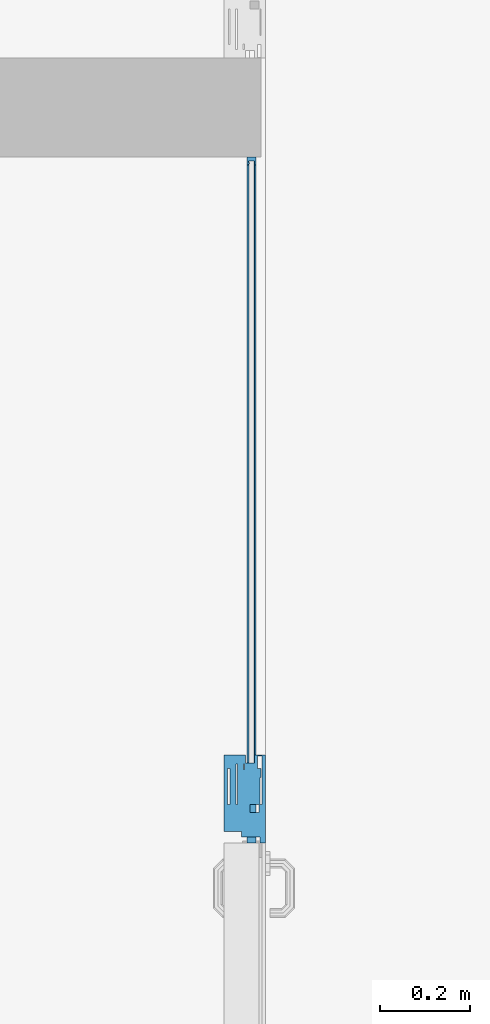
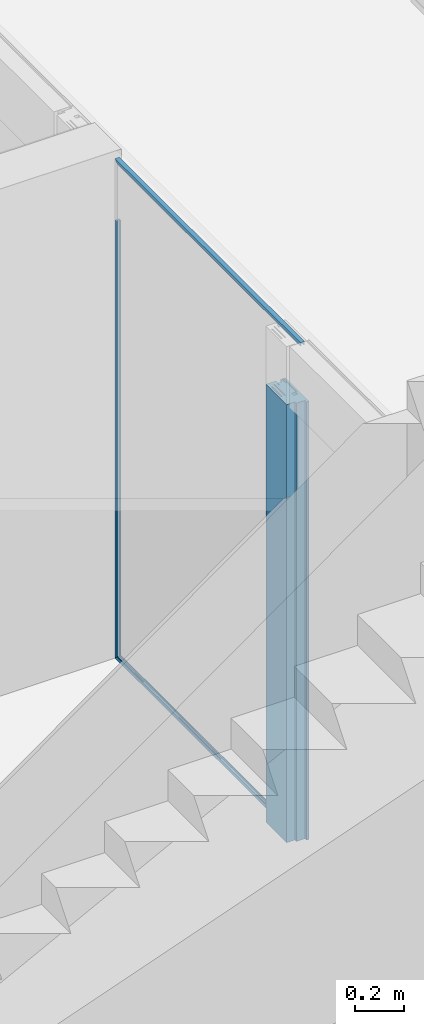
# One storey, part 2 of 79: 4 members, 1 element without a shape of its own.
"""IFC2X3 building model written with IfcOpenShell, lengths in millimetres."""

from ifc_helpers import new_model, entity, si_unit, converted_unit, derived_unit, money_unit, direction, frame, origin_with_axes, place, context, subcontext, project, spatial, faceted_brep, source, transform, mapped, material, material_list, type_object, element, aggregate, save


model = new_model("IFC2X3")

# Units and contexts
model_context = context("Model", 3, precision=0.01, world=origin_with_axes(), true_north=direction((0.0, 1.0)))
body_context = subcontext(model_context, "Body", "Model", "MODEL_VIEW")
ifc_project = project(units=[si_unit("LENGTHUNIT", "METRE", prefix="MILLI"), si_unit("AREAUNIT", "SQUARE_METRE"), si_unit("VOLUMEUNIT", "CUBIC_METRE"), converted_unit("PLANEANGLEUNIT", "DEGREE", entity("IfcPlaneAngleMeasure", 0.0174532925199), si_unit("PLANEANGLEUNIT", "RADIAN"), dimensions=[0, 0, 0, 0, 0, 0, 0]), si_unit("SOLIDANGLEUNIT", "STERADIAN"), money_unit("EUR"), converted_unit("TIMEUNIT", "Year", entity("IfcTimeMeasure", 31556926.0), si_unit("TIMEUNIT", "SECOND"), dimensions=[0, 0, 1, 0, 0, 0, 0]), si_unit("MASSUNIT", "GRAM", prefix="KILO"), si_unit("THERMODYNAMICTEMPERATUREUNIT", "DEGREE_CELSIUS"), si_unit("LUMINOUSINTENSITYUNIT", "LUMEN"), si_unit("ENERGYUNIT", "JOULE", prefix="MEGA"), derived_unit("THERMALCONDUCTANCEUNIT", [(si_unit("POWERUNIT", "WATT"), 1), (si_unit("LENGTHUNIT", "METRE"), -1), (si_unit("THERMODYNAMICTEMPERATUREUNIT", "KELVIN"), -1)]), derived_unit("SPECIFICHEATCAPACITYUNIT", [(si_unit("ENERGYUNIT", "JOULE"), 1), (si_unit("MASSUNIT", "GRAM", prefix="KILO"), -1), (si_unit("THERMODYNAMICTEMPERATUREUNIT", "KELVIN"), -1)]), derived_unit("MASSDENSITYUNIT", [(si_unit("MASSUNIT", "GRAM", prefix="KILO"), 1), (si_unit("VOLUMEUNIT", "CUBIC_METRE"), -1)])], contexts=[model_context])

# Site, building, storey
site_placement = place(None, origin_with_axes())
site = spatial("IfcSite", under=ifc_project, at=site_placement, Name="L.Koidula tn 11b", CompositionType="ELEMENT")
building_placement = place(site_placement, origin_with_axes())
building = spatial("IfcBuilding", under=site, at=building_placement, Name="Rakvere Riigigümnaasium", CompositionType="ELEMENT")
storey_placement = place(building_placement, frame((0.0, 0.0, 3720.0), z_axis=(0.0, 0.0, 1.0), x_axis=(1.0, 0.0, 0.0)))
storey = spatial("IfcBuildingStorey", under=building, at=storey_placement, Name="2.korrus +3,72", CompositionType="ELEMENT", Elevation=3720.0)

# Curtain wall, members
curtain_wall_type = type_object("IfcCurtainWallType", Name="Curtain Wall Type", PredefinedType="NOTDEFINED")
curtain_wall_placement = place(storey_placement, frame((41130.915445, 17840.4555248, 2.4134225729e-05), z_axis=(0.0, 0.0, 1.0), x_axis=(1.0, 0.0, 0.0)))
curtain_wall = element("IfcCurtainWall", 1, at=curtain_wall_placement, inside=storey, type_object=curtain_wall_type, Name="SKLF-12")
ifc_material_1 = material(Name="Klaasvill")
ifc_material_2 = material(Name="Alumiiniumprofiil")
ifc_material_list_1 = material_list([ifc_material_1, ifc_material_2])
member_type_1 = type_object("IfcMemberType", Name="Boundary Frame 17 x 1", PredefinedType="MULLION")
shared_shape_1 = source(origin_with_axes(), body_context, "Body", "Brep", [
    faceted_brep([(-8.35001937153, -5.0, 8.35001937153), (-2.00001937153, -5.0, 2.00001937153), (-2.00001937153, -5.0, 2200.0), (-8.35001937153, -5.0, 2200.0), (-8.35001937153, 9.01614452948, 8.35001937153), (-2.00001937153, 9.01614452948, 2.00001937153), (-2.00001937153, 9.01614452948, 2200.0), (-8.35001937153, 9.01614452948, 2200.0)], [[[0, 1, 2, 3]], [[1, 0, 4, 5]], [[1, 5, 6, 2]], [[2, 6, 7, 3]], [[4, 0, 3, 7]], [[5, 4, 7, 6]]]),
    faceted_brep([(-12.004489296, 7.03075035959, 12.004489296), (-11.987414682, 9.01614444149, 11.987414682), (-11.987414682, 9.01614444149, 2200.0), (-12.004489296, 7.03075035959, 2200.0), (-12.742237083, 6.29300257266, 12.742237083), (-13.7500193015, 6.02296814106, 13.7500193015), (-14.75780152, 6.29300257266, 14.75780152), (-15.4955493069, 7.03075035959, 15.4955493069), (-15.7655837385, 8.03853257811, 15.7655837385), (-15.5126239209, 9.01614444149, 15.5126239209), (-15.5126239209, 9.01614444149, 2200.0), (-15.7655837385, 8.03853257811, 2200.0), (-15.4955493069, 7.03075035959, 2200.0), (-14.75780152, 6.29300257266, 2200.0), (-13.7500193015, 6.02296814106, 2200.0), (-12.742237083, 6.29300257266, 2200.0)], [[[0, 1, 2, 3]], [[1, 0, 4, 5, 6, 7, 8, 9]], [[1, 9, 10, 2]], [[2, 10, 11, 12, 13, 14, 15, 3]], [[4, 0, 3, 15]], [[5, 4, 15, 14]], [[6, 5, 14, 13]], [[7, 6, 13, 12]], [[8, 7, 12, 11]], [[9, 8, 11, 10]]]),
    faceted_brep([(-17.0000193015, -8.0, 17.0000193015), (0.0, -8.0, 0.0), (0.0, -8.0, 2200.0), (-17.0000193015, -8.0, 2200.0), (-17.0000193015, -5.0, 17.0000193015), (-8.35001937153, -5.0, 8.35001937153), (-2.00001930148, -5.0, 2.00001930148), (-2.00001930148, 9.01614444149, 2.00001930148), (-8.35001937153, 9.01614452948, 8.35001937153), (-11.987414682, 9.01614444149, 11.987414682), (-15.5126239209, 9.01614444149, 15.5126239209), (-17.0000193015, 9.01614444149, 17.0000193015), (-17.0000193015, 12.0, 17.0000193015), (0.0, 12.0, 0.0), (0.0, 12.0, 2200.0), (-17.0000193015, 12.0, 2200.0), (-17.0000193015, 9.01614444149, 2200.0), (-15.5126239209, 9.01614444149, 2200.0), (-11.987414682, 9.01614444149, 2200.0), (-8.35001937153, 9.01614452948, 2200.0), (-2.00001930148, 9.01614444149, 2200.0), (-2.00001930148, -5.0, 2200.0), (-8.35001937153, -5.0, 2200.0), (-17.0000193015, -5.0, 2200.0)], [[[0, 1, 2, 3]], [[1, 0, 4, 5, 6, 7, 8, 9, 10, 11, 12, 13]], [[1, 13, 14, 2]], [[2, 14, 15, 16, 17, 18, 19, 20, 21, 22, 23, 3]], [[4, 0, 3, 23]], [[5, 4, 23, 22]], [[6, 5, 22, 21]], [[7, 6, 21, 20]], [[8, 7, 20, 19]], [[9, 8, 19, 18]], [[10, 9, 18, 17]], [[11, 10, 17, 16]], [[12, 11, 16, 15]], [[13, 12, 15, 14]]]),
])
member_1_placement = place(curtain_wall_placement, frame((0.08385283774, 1989.99999823, -2.4134225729e-05), z_axis=(0.0, 0.0, 1.0), x_axis=(-4.21371043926e-05, -0.999999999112, 0.0)))
member_1 = element("IfcMember", 2, at=member_1_placement, type_object=member_type_1, material=ifc_material_list_1, Name="PV-SKLF-19-raam", ObjectType="MULLION", context=body_context, shape_type="MappedRepresentation", body=[
    mapped(shared_shape_1, transform((0.0, 0.0, 0.0), x_axis=(-1.0, 0.0, 0.0), y_axis=(0.0, -1.0, 0.0), z_axis=(0.0, 0.0, 1.0))),
])
ifc_material_3 = material(Name="Puit")
ifc_material_4 = material(Name="MDF")
ifc_material_list_2 = material_list([ifc_material_3, ifc_material_4, ifc_material_1, ifc_material_2])
member_type_2 = type_object("IfcMemberType", Name="Siseklaasfassaad - Ukseraam-2 195 x 29", PredefinedType="MULLION")
shared_shape_2 = source(origin_with_axes(), body_context, "Body", "Brep", [
    faceted_brep([(0.0, 50.8404412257, 0.0), (0.0, 50.8404412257, 2200.0), (0.0, -15.2764635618, 2200.0), (0.0, -15.2764635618, 0.0), (-29.9999995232, 50.8404412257, 0.0), (-29.9999995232, 50.8404412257, 2200.0), (-30.0000008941, 23.8404411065, 2200.0), (-41.9954210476, 23.8404411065, 2200.0), (-41.9954210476, -8.15955847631, 2200.0), (-41.9954210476, -15.2764635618, 2200.0), (-41.8573788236, -15.2764635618, 2200.0), (-41.8573788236, -15.2764635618, 0.0), (-41.9954210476, -15.2764635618, 0.0), (-41.9954210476, -8.15955847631, 0.0), (-41.9954210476, 23.8404411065, 0.0), (-30.0000008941, 23.8404411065, 0.0)], [[[0, 1, 2, 3]], [[4, 5, 1, 0]], [[1, 5, 6, 7, 8, 9, 10, 2]], [[3, 2, 10, 11]], [[0, 3, 11, 12, 13, 14, 15, 4]], [[15, 6, 5, 4]], [[14, 7, 6, 15]], [[13, 8, 7, 14]], [[12, 9, 8, 13]], [[11, 10, 9, 12]]]),
    faceted_brep([(137.859682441, -21.159534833, 0.0), (137.859682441, -21.159534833, 2200.0), (137.859682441, -29.159535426, 2200.0), (137.859682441, -29.159535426, 0.0), (30.0029064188, -21.1595377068, 0.0), (30.0029064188, -21.1595377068, 2200.0), (-52.9999994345, -21.1595377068, 2200.0), (-52.9999994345, -29.1595584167, 2200.0), (-52.9999994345, -29.1595584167, 0.0), (-52.9999994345, -21.1595377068, 0.0)], [[[0, 1, 2, 3]], [[4, 5, 1, 0]], [[1, 5, 6, 7, 2]], [[3, 2, 7, 8]], [[0, 3, 8, 9, 4]], [[9, 6, 5, 4]], [[8, 7, 6, 9]]]),
    faceted_brep([(137.859682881, 54.8404422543, 0.0), (137.859682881, 54.8404422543, 2200.0), (121.188402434, 54.8405744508, 2200.0), (121.188402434, 54.8405744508, 0.0), (137.859682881, 62.8404399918, 0.0), (137.859682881, 62.8404399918, 2200.0), (-28.0000003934, 62.8404428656, 2200.0), (-28.0000003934, 54.8404422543, 2200.0), (-1.12771575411e-06, 54.8404422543, 2200.0), (30.0029066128, 54.8404422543, 2200.0), (109.859683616, 54.8405744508, 2200.0), (109.859683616, 54.8405744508, 0.0), (30.0029066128, 54.8404422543, 0.0), (-1.12771575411e-06, 54.8404422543, 0.0), (-28.0000003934, 54.8404422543, 0.0), (-28.0000003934, 62.8404428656, 0.0)], [[[0, 1, 2, 3]], [[4, 5, 1, 0]], [[1, 5, 6, 7, 8, 9, 10, 2]], [[3, 2, 10, 11]], [[0, 3, 11, 12, 13, 14, 15, 4]], [[15, 6, 5, 4]], [[14, 7, 6, 15]], [[13, 8, 7, 14]], [[12, 9, 8, 13]], [[11, 10, 9, 12]]]),
    faceted_brep([(120.859682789, 33.3330734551, 0.0), (120.859682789, 33.3330734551, 2200.0), (120.859682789, 20.34054937, 2200.0), (120.859682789, 20.34054937, 0.0), (30.0029064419, 33.3311238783, 0.0), (30.0029064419, 33.3311238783, 2200.0), (30.0029050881, 20.3386011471, 2200.0), (107.859682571, 20.338601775, 2200.0), (107.859682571, 20.338601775, 0.0), (30.0029050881, 20.3386011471, 0.0)], [[[0, 1, 2, 3]], [[4, 5, 1, 0]], [[1, 5, 6, 7, 2]], [[3, 2, 7, 8]], [[0, 3, 8, 9, 4]], [[9, 6, 5, 4]], [[8, 7, 6, 9]]]),
    faceted_brep([(120.859682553, 49.8405506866, 0.0), (120.859682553, 49.8405506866, 2200.0), (120.859682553, 36.8405491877, 2200.0), (120.859682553, 36.8405491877, 0.0), (109.8596833, 49.8405506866, 0.0), (109.8596833, 49.8405506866, 2200.0), (30.0046927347, 49.8404410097, 2200.0), (30.0046927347, 36.8404411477, 2200.0), (30.0046927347, 36.8404411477, 0.0), (30.0046927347, 49.8404410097, 0.0)], [[[0, 1, 2, 3]], [[4, 5, 1, 0]], [[1, 5, 6, 7, 2]], [[3, 2, 7, 8]], [[0, 3, 8, 9, 4]], [[9, 6, 5, 4]], [[8, 7, 6, 9]]]),
    faceted_brep([(107.859682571, 20.338601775, 0.0), (107.859682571, 20.338601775, 2200.0), (107.859682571, -5.15955767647, 2200.0), (107.859682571, -5.15955767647, 0.0), (30.0029050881, 20.338601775, 0.0), (30.0029050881, 20.338601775, 2200.0), (30.0029050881, 5.24044086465, 2200.0), (30.0029050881, -15.1595587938, 2200.0), (30.0029050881, -17.1595580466, 2200.0), (89.8596820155, -17.1595604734, 2200.0), (107.859682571, -17.1595604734, 2200.0), (107.859682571, -11.1594268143, 2200.0), (107.859682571, -11.1594268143, 0.0), (107.859682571, -17.1595604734, 0.0), (89.8596820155, -17.1595604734, 0.0), (30.0029050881, -17.1595580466, 0.0), (30.0029050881, -15.1595587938, 0.0), (30.0029050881, 5.24044086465, 0.0)], [[[0, 1, 2, 3]], [[4, 5, 1, 0]], [[1, 5, 6, 7, 8, 9, 10, 11, 2]], [[3, 2, 11, 12]], [[0, 3, 12, 13, 14, 15, 16, 17, 4]], [[17, 6, 5, 4]], [[16, 7, 6, 17]], [[15, 8, 7, 16]], [[14, 9, 8, 15]], [[13, 10, 9, 14]], [[12, 11, 10, 13]]]),
    faceted_brep([(30.0029058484, 54.8404413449, 0.0), (30.0029058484, 54.8404413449, 2200.0), (30.0046927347, 49.8404410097, 2200.0), (30.0046927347, 49.8404410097, 0.0), (0.0, 54.8404413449, 0.0), (0.0, 54.8404413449, 2200.0), (-27.9999994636, 54.8404413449, 2200.0), (-27.9999994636, 62.8404415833, 2200.0), (-29.9999995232, 62.8404415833, 2200.0), (-29.9999995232, 54.8404413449, 2200.0), (-29.9999995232, 50.8404412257, 2200.0), (0.0, 50.8404412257, 2200.0), (0.0, -15.2764635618, 2200.0), (-41.8573788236, -15.2764635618, 2200.0), (-41.8573788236, -17.1595580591, 2200.0), (-54.9999995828, -17.1595580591, 2200.0), (-54.9999995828, -20.2336043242, 2200.0), (-54.9999995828, -29.1595584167, 2200.0), (-53.0000007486, -29.1595584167, 2200.0), (-53.0000007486, -21.1595363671, 2200.0), (30.0029058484, -21.1595363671, 2200.0), (30.0029050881, -17.1595580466, 2200.0), (30.0029058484, -15.1595579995, 2200.0), (12.999999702, -15.1595579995, 2200.0), (12.999999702, 5.24044206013, 2200.0), (30.0029058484, 5.24044206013, 2200.0), (30.0029050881, 20.3386011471, 2200.0), (30.0029064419, 33.3311238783, 2200.0), (30.0046927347, 36.8404411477, 2200.0), (30.0046927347, 36.8404411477, 0.0), (30.0029064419, 33.3311238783, 0.0), (30.0029050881, 20.3386011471, 0.0), (30.0029058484, 5.24044206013, 0.0), (12.999999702, 5.24044206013, 0.0), (12.999999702, -15.1595579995, 0.0), (30.0029058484, -15.1595579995, 0.0), (30.0029050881, -17.1595580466, 0.0), (30.0029058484, -21.1595363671, 0.0), (-53.0000007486, -21.1595363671, 0.0), (-53.0000007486, -29.1595584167, 0.0), (-54.9999995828, -29.1595584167, 0.0), (-54.9999995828, -20.2336043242, 0.0), (-54.9999995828, -17.1595580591, 0.0), (-41.8573788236, -17.1595580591, 0.0), (-41.8573788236, -15.2764635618, 0.0), (0.0, -15.2764635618, 0.0), (0.0, 50.8404412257, 0.0), (-29.9999995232, 50.8404412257, 0.0), (-29.9999995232, 54.8404413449, 0.0), (-29.9999995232, 62.8404415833, 0.0), (-27.9999994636, 62.8404415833, 0.0), (-27.9999994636, 54.8404413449, 0.0)], [[[0, 1, 2, 3]], [[4, 5, 1, 0]], [[1, 5, 6, 7, 8, 9, 10, 11, 12, 13, 14, 15, 16, 17, 18, 19, 20, 21, 22, 23, 24, 25, 26, 27, 28, 2]], [[3, 2, 28, 29]], [[0, 3, 29, 30, 31, 32, 33, 34, 35, 36, 37, 38, 39, 40, 41, 42, 43, 44, 45, 46, 47, 48, 49, 50, 51, 4]], [[51, 6, 5, 4]], [[50, 7, 6, 51]], [[49, 8, 7, 50]], [[48, 9, 8, 49]], [[47, 10, 9, 48]], [[46, 11, 10, 47]], [[45, 12, 11, 46]], [[44, 13, 12, 45]], [[43, 14, 13, 44]], [[42, 15, 14, 43]], [[41, 16, 15, 42]], [[40, 17, 16, 41]], [[39, 18, 17, 40]], [[38, 19, 18, 39]], [[37, 20, 19, 38]], [[36, 21, 20, 37]], [[35, 22, 21, 36]], [[34, 23, 22, 35]], [[33, 24, 23, 34]], [[32, 25, 24, 33]], [[31, 26, 25, 32]], [[30, 27, 26, 31]], [[29, 28, 27, 30]]]),
    faceted_brep([(139.859682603, 62.8404415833, 0.0), (139.859682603, 62.8404415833, 2200.0), (139.859682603, 15.2404414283, 2200.0), (139.859682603, 15.2404414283, 0.0), (137.859683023, 62.8404415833, 0.0), (137.859683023, 62.8404415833, 2200.0), (137.859681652, 54.8405734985, 2200.0), (121.188400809, 54.8405734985, 2200.0), (109.859683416, 54.8405734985, 2200.0), (109.859683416, 53.8404414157, 2200.0), (109.859683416, 49.8405505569, 2200.0), (120.859681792, 49.8405505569, 2200.0), (120.859682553, 36.8405491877, 2200.0), (120.859682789, 33.3330734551, 2200.0), (120.859682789, 20.34054937, 2200.0), (120.859681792, 17.2404410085, 2200.0), (107.859682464, 17.2404410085, 2200.0), (107.859682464, -5.1595578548, 2200.0), (107.859682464, -11.1594263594, 2200.0), (107.859682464, -17.1595594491, 2200.0), (89.8596821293, -17.1595594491, 2200.0), (89.8596821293, -19.1595576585, 2200.0), (107.859682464, -19.1595576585, 2200.0), (109.859682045, -19.1595576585, 2200.0), (109.859682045, -17.1595594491, 2200.0), (109.859682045, -11.1594263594, 2200.0), (137.859681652, -11.1594263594, 2200.0), (137.859682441, -21.159534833, 2200.0), (137.859681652, -29.1595363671, 2200.0), (139.859682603, -29.1595363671, 2200.0), (139.859682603, -5.1595578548, 2200.0), (137.859681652, -5.1595578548, 2200.0), (122.859682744, -5.1595578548, 2200.0), (122.859682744, 15.2404414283, 2200.0), (122.859682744, 15.2404414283, 0.0), (122.859682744, -5.1595578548, 0.0), (137.859681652, -5.1595578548, 0.0), (139.859682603, -5.1595578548, 0.0), (139.859682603, -29.1595363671, 0.0), (137.859681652, -29.1595363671, 0.0), (137.859682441, -21.159534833, 0.0), (137.859681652, -11.1594263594, 0.0), (109.859682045, -11.1594263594, 0.0), (109.859682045, -17.1595594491, 0.0), (109.859682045, -19.1595576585, 0.0), (107.859682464, -19.1595576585, 0.0), (89.8596821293, -19.1595576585, 0.0), (89.8596821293, -17.1595594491, 0.0), (107.859682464, -17.1595594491, 0.0), (107.859682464, -11.1594263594, 0.0), (107.859682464, -5.1595578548, 0.0), (107.859682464, 17.2404410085, 0.0), (120.859681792, 17.2404410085, 0.0), (120.859682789, 20.34054937, 0.0), (120.859682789, 33.3330734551, 0.0), (120.859682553, 36.8405491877, 0.0), (120.859681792, 49.8405505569, 0.0), (109.859683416, 49.8405505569, 0.0), (109.859683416, 53.8404414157, 0.0), (109.859683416, 54.8405734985, 0.0), (121.188400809, 54.8405734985, 0.0), (137.859681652, 54.8405734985, 0.0)], [[[0, 1, 2, 3]], [[4, 5, 1, 0]], [[1, 5, 6, 7, 8, 9, 10, 11, 12, 13, 14, 15, 16, 17, 18, 19, 20, 21, 22, 23, 24, 25, 26, 27, 28, 29, 30, 31, 32, 33, 2]], [[3, 2, 33, 34]], [[0, 3, 34, 35, 36, 37, 38, 39, 40, 41, 42, 43, 44, 45, 46, 47, 48, 49, 50, 51, 52, 53, 54, 55, 56, 57, 58, 59, 60, 61, 4]], [[61, 6, 5, 4]], [[60, 7, 6, 61]], [[59, 8, 7, 60]], [[58, 9, 8, 59]], [[57, 10, 9, 58]], [[56, 11, 10, 57]], [[55, 12, 11, 56]], [[54, 13, 12, 55]], [[53, 14, 13, 54]], [[52, 15, 14, 53]], [[51, 16, 15, 52]], [[50, 17, 16, 51]], [[49, 18, 17, 50]], [[48, 19, 18, 49]], [[47, 20, 19, 48]], [[46, 21, 20, 47]], [[45, 22, 21, 46]], [[44, 23, 22, 45]], [[43, 24, 23, 44]], [[42, 25, 24, 43]], [[41, 26, 25, 42]], [[40, 27, 26, 41]], [[39, 28, 27, 40]], [[38, 29, 28, 39]], [[37, 30, 29, 38]], [[36, 31, 30, 37]], [[35, 32, 31, 36]], [[34, 33, 32, 35]]]),
])
member_2_placement = place(curtain_wall_placement, frame((0.021911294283, 519.999999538, -2.4134225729e-05), z_axis=(0.0, 0.0, 1.0), x_axis=(-4.21371043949e-05, -0.999999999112, 0.0)))
member_2 = element("IfcMember", 3, at=member_2_placement, type_object=member_type_2, material=ifc_material_list_2, Name="Frame-Siseklaasf-005", ObjectType="MULLION", context=body_context, shape_type="MappedRepresentation", body=[
    mapped(shared_shape_2, transform((0.0, 0.0, 0.0), x_axis=(-1.0, 0.0, 0.0), y_axis=(0.0, -1.0, 0.0), z_axis=(0.0, 0.0, 1.0))),
])
shared_shape_3 = source(origin_with_axes(), body_context, "Body", "Brep", [
    faceted_brep([(2.00001937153, -5.0, -54.9999995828), (8.35001937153, -5.0, -54.9999995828), (8.35001937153, -5.0, 1461.64998584), (2.00001937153, -5.0, 1467.99998584), (2.00001937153, 9.01614452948, -54.9999995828), (8.35001937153, 9.01614452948, -54.9999995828), (8.35001937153, 9.01614452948, 1461.64998584), (2.00001937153, 9.01614452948, 1467.99998584)], [[[0, 1, 2, 3]], [[0, 4, 5, 1]], [[1, 5, 6, 2]], [[3, 2, 6, 7]], [[4, 0, 3, 7]], [[5, 4, 7, 6]]]),
    faceted_brep([(11.987414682, 9.01614444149, -54.9999995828), (12.004489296, 7.03075035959, -54.9999995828), (12.004489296, 7.03075035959, 1457.99551592), (11.987414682, 9.01614444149, 1458.01259053), (15.5126239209, 9.01614444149, -54.9999995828), (15.7655837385, 8.03853257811, -54.9999995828), (15.4955493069, 7.03075035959, -54.9999995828), (14.75780152, 6.29300257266, -54.9999995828), (13.7500193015, 6.02296814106, -54.9999995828), (12.742237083, 6.29300257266, -54.9999995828), (12.742237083, 6.29300257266, 1457.25776813), (13.7500193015, 6.02296814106, 1456.24998591), (14.75780152, 6.29300257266, 1455.24220369), (15.4955493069, 7.03075035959, 1454.50445591), (15.7655837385, 8.03853257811, 1454.23442147), (15.5126239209, 9.01614444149, 1454.48738129)], [[[0, 1, 2, 3]], [[0, 4, 5, 6, 7, 8, 9, 1]], [[1, 9, 10, 2]], [[3, 2, 10, 11, 12, 13, 14, 15]], [[4, 0, 3, 15]], [[5, 4, 15, 14]], [[6, 5, 14, 13]], [[7, 6, 13, 12]], [[8, 7, 12, 11]], [[9, 8, 11, 10]]]),
    faceted_brep([(0.0, -8.0, -54.9999995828), (17.0000193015, -8.0, -54.9999995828), (17.0000193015, -8.0, 1452.99998591), (0.0, -8.0, 1470.00000521), (0.0, 12.0, -54.9999995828), (17.0000193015, 12.0, -54.9999995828), (17.0000193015, 9.01614444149, -54.9999995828), (15.5126239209, 9.01614444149, -54.9999995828), (11.987414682, 9.01614444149, -54.9999995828), (8.35001937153, 9.01614452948, -54.9999995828), (2.00001930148, 9.01614444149, -54.9999995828), (2.00001930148, -5.0, -54.9999995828), (8.35001937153, -5.0, -54.9999995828), (17.0000193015, -5.0, -54.9999995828), (17.0000193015, -5.0, 1452.99998591), (8.35001937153, -5.0, 1461.64998584), (2.00001930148, -5.0, 1467.99998591), (2.00001930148, 9.01614444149, 1467.99998591), (8.35001937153, 9.01614452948, 1461.64998584), (11.987414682, 9.01614444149, 1458.01259053), (15.5126239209, 9.01614444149, 1454.48738129), (17.0000193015, 9.01614444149, 1452.99998591), (17.0000193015, 12.0, 1452.99998591), (0.0, 12.0, 1470.00000521)], [[[0, 1, 2, 3]], [[0, 4, 5, 6, 7, 8, 9, 10, 11, 12, 13, 1]], [[1, 13, 14, 2]], [[3, 2, 14, 15, 16, 17, 18, 19, 20, 21, 22, 23]], [[4, 0, 3, 23]], [[5, 4, 23, 22]], [[6, 5, 22, 21]], [[7, 6, 21, 20]], [[8, 7, 20, 19]], [[9, 8, 19, 18]], [[10, 9, 18, 17]], [[11, 10, 17, 16]], [[12, 11, 16, 15]], [[13, 12, 15, 14]]]),
])
member_3_placement = place(curtain_wall_placement, frame((0.021911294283, 519.999999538, 2507.99997587), z_axis=(4.21371043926e-05, 0.999999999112, 0.0), x_axis=(0.0, 0.0, 1.0)))
member_3 = element("IfcMember", 4, at=member_3_placement, type_object=member_type_1, material=ifc_material_list_1, Name="PV-SKLF-21-raam", ObjectType="MULLION", context=body_context, shape_type="MappedRepresentation", body=[
    mapped(shared_shape_3, transform((0.0, 0.0, 0.0), x_axis=(-1.0, 0.0, 0.0), y_axis=(0.0, -1.0, 0.0), z_axis=(0.0, 0.0, 1.0))),
])
shared_shape_4 = source(origin_with_axes(), body_context, "Body", "Brep", [
    faceted_brep([(-2.00001937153, -5.0, 0.0), (-2.00001937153, -5.0, 1416.19326956), (-8.35001937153, -5.0, 1409.84326956), (-8.35001937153, -5.0, 0.0), (-2.00001937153, 9.01614452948, 0.0), (-2.00001937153, 9.01614452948, 1416.19326956), (-8.35001937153, 9.01614452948, 1409.84326956), (-8.35001937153, 9.01614452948, 0.0)], [[[0, 1, 2, 3]], [[4, 5, 1, 0]], [[1, 5, 6, 2]], [[3, 2, 6, 7]], [[0, 3, 7, 4]], [[7, 6, 5, 4]]]),
    faceted_brep([(-11.987414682, 9.01614444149, 0.0), (-11.987414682, 9.01614444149, 1406.20587425), (-12.004489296, 7.03075035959, 1406.18879963), (-12.004489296, 7.03075035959, 0.0), (-15.5126239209, 9.01614444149, 0.0), (-15.5126239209, 9.01614444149, 1402.68066501), (-15.7655837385, 8.03853257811, 1402.42770519), (-15.4955493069, 7.03075035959, 1402.69773962), (-14.75780152, 6.29300257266, 1403.43548741), (-13.7500193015, 6.02296814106, 1404.44326963), (-12.742237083, 6.29300257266, 1405.45105185), (-12.742237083, 6.29300257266, 0.0), (-13.7500193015, 6.02296814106, 0.0), (-14.75780152, 6.29300257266, 0.0), (-15.4955493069, 7.03075035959, 0.0), (-15.7655837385, 8.03853257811, 0.0)], [[[0, 1, 2, 3]], [[4, 5, 1, 0]], [[1, 5, 6, 7, 8, 9, 10, 2]], [[3, 2, 10, 11]], [[0, 3, 11, 12, 13, 14, 15, 4]], [[15, 6, 5, 4]], [[14, 7, 6, 15]], [[13, 8, 7, 14]], [[12, 9, 8, 13]], [[11, 10, 9, 12]]]),
    faceted_brep([(0.0, -8.0, 0.0), (0.0, -8.0, 1418.19328893), (-17.0000193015, -8.0, 1401.19326963), (-17.0000193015, -8.0, 0.0), (0.0, 12.0, 0.0), (0.0, 12.0, 1418.19328893), (-17.0000193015, 12.0, 1401.19326963), (-17.0000193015, 9.01614444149, 1401.19326963), (-15.5126239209, 9.01614444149, 1402.68066501), (-11.987414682, 9.01614444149, 1406.20587425), (-8.35001937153, 9.01614452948, 1409.84326956), (-2.00001930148, 9.01614444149, 1416.19326963), (-2.00001930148, -5.0, 1416.19326963), (-8.35001937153, -5.0, 1409.84326956), (-17.0000193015, -5.0, 1401.19326963), (-17.0000193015, -5.0, 0.0), (-8.35001937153, -5.0, 0.0), (-2.00001930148, -5.0, 0.0), (-2.00001930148, 9.01614444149, 0.0), (-8.35001937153, 9.01614452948, 0.0), (-11.987414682, 9.01614444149, 0.0), (-15.5126239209, 9.01614444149, 0.0), (-17.0000193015, 9.01614444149, 0.0), (-17.0000193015, 12.0, 0.0)], [[[0, 1, 2, 3]], [[4, 5, 1, 0]], [[1, 5, 6, 7, 8, 9, 10, 11, 12, 13, 14, 2]], [[3, 2, 14, 15]], [[0, 3, 15, 16, 17, 18, 19, 20, 21, 22, 23, 4]], [[23, 6, 5, 4]], [[22, 7, 6, 23]], [[21, 8, 7, 22]], [[20, 9, 8, 21]], [[19, 10, 9, 20]], [[18, 11, 10, 19]], [[17, 12, 11, 18]], [[16, 13, 12, 17]], [[15, 14, 13, 16]]]),
])
member_4_placement = place(curtain_wall_placement, frame((0.02409427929, 571.806715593, -2.4134225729e-05), z_axis=(4.21371043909e-05, 0.999999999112, 0.0), x_axis=(0.0, 0.0, 1.0)))
member_4 = element("IfcMember", 5, at=member_4_placement, type_object=member_type_1, material=ifc_material_list_1, Name="PV-SKLF-18-raam", ObjectType="MULLION", context=body_context, shape_type="MappedRepresentation", body=[
    mapped(shared_shape_4, transform((0.0, 0.0, 0.0), x_axis=(-1.0, 0.0, 0.0), y_axis=(0.0, -1.0, 0.0), z_axis=(0.0, 0.0, 1.0))),
])
aggregate(curtain_wall, [member_2, member_3, member_4, member_1])

save(model, "model.ifc")
